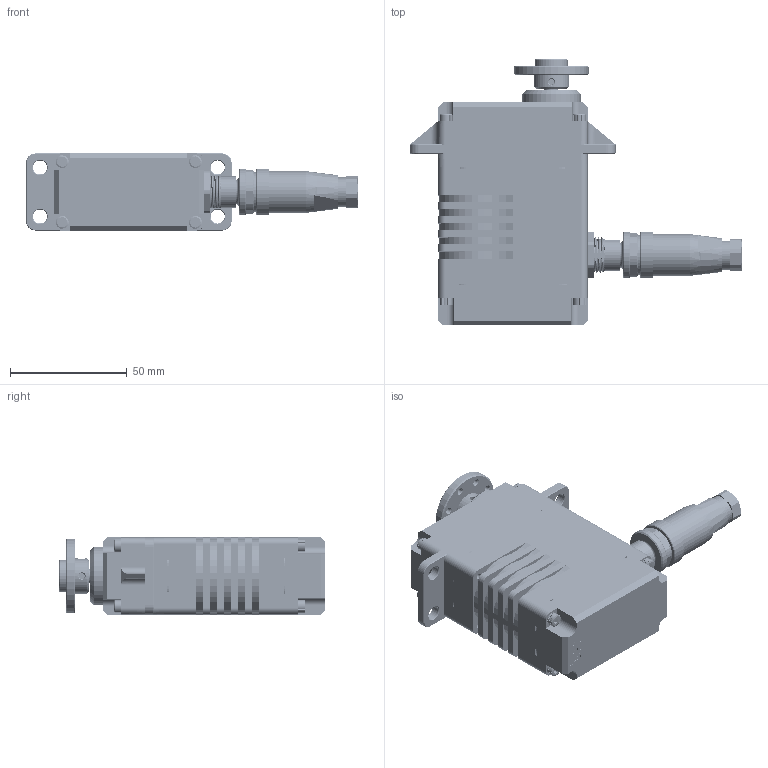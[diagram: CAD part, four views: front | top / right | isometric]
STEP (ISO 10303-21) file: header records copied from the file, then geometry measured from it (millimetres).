
FILE_DESCRIPTION((''),'2;1');
FILE_NAME('SG33BL_UBER_ASM','2019-12-16T',('servo-csw'),(''),'CREO PARAMETRIC BY PTC INC, 2016050','CREO PARAMETRIC BY PTC INC, 2016050','');
FILE_SCHEMA(('CONFIG_CONTROL_DESIGN'));
Products named in the file (14): S33T-E-G_AL6061_120101010127; 120208000043_SI_1100_T-RING; SG33SG4_HORN_SHAFT; S33G4_12XXXXXXXXXX_ASM; I-MOS_S45C_120217000116; 120201000114_SC_M3XL3; HSH_M3XL30_SUS_120201000141; HSH_M3X15_SUS_120201000155; 120204000002_SW_5_9X3_1; S33L_AL6061_UBER; SG33BL_AL6061_HEATSINK_UBER; C-T4131012041-000-A-3D; C-T4111001051-000-A-3D; SG33BL_UBER_ASM
Assembly tree (28 placements, depth 3):
  SG33BL_UBER_ASM
    S33T-E-G_AL6061_120101010127
    120208000043_SI_1100_T-RING  x2
    S33G4_12XXXXXXXXXX_ASM
      SG33SG4_HORN_SHAFT
    I-MOS_S45C_120217000116
    120201000114_SC_M3XL3  x2
    HSH_M3XL30_SUS_120201000141  x4
    HSH_M3X15_SUS_120201000155  x4
    120204000002_SW_5_9X3_1  x8
    S33L_AL6061_UBER
    SG33BL_AL6061_HEATSINK_UBER
    C-T4131012041-000-A-3D
    C-T4111001051-000-A-3D
Bounding box: 142.1 x 114.2 x 33 mm (x, y, z)
Volume: 119674.6 mm3; surface area: 60663.5 mm2
Topology: 27 solids, 27 shells, 3076 faces, 8437 edges, 5470 vertices
Faces by surface type: cylinder 1441, plane 1104, bspline 277, cone 200, torus 52, sphere 2
Entity records: 86539 total; most frequent: CARTESIAN_POINT 34416, ORIENTED_EDGE 8562, DIRECTION 7752, EDGE_CURVE 4281, PRESENTATION_STYLE_ASSIGNMENT 3646, STYLED_ITEM 3494, CURVE_STYLE 3484, VERTEX_POINT 2770
